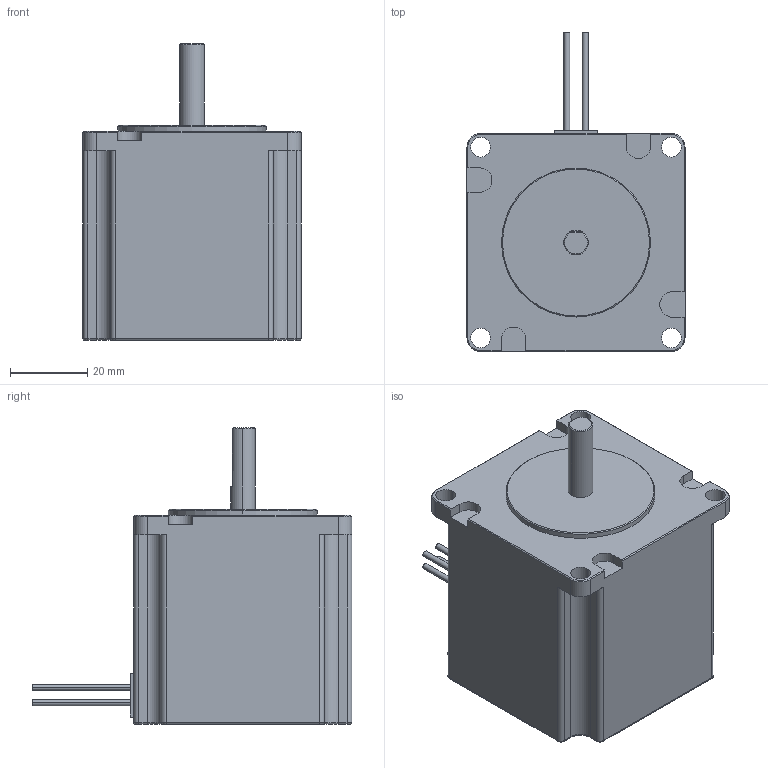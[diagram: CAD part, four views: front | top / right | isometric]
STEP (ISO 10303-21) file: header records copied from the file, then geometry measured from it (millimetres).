
FILE_DESCRIPTION((''),'2;1');
FILE_NAME('M-2222-30S','2017-12-21T15:39:16',('mulloa'),(''),'CREO PARAMETRIC BY PTC INC, 2016390','CREO PARAMETRIC BY PTC INC, 2016390','');
FILE_SCHEMA(('CONFIG_CONTROL_DESIGN'));
Length unit declared in the file: inch
Products named in the file (1): M-2222-30S
Bounding box: 56.39 x 82.68 x 76.71 mm (x, y, z)
Volume: 164051.6 mm3; surface area: 19411.6 mm2
Topology: 1 solids, 1 shells, 128 faces, 316 edges, 198 vertices
Faces by surface type: cylinder 54, plane 53, torus 14, cone 7
Entity records: 3849 total; most frequent: DIRECTION 703, CARTESIAN_POINT 650, ORIENTED_EDGE 632, EDGE_CURVE 316, AXIS2_PLACEMENT_3D 261, VERTEX_POINT 198, VECTOR 181, LINE 181
